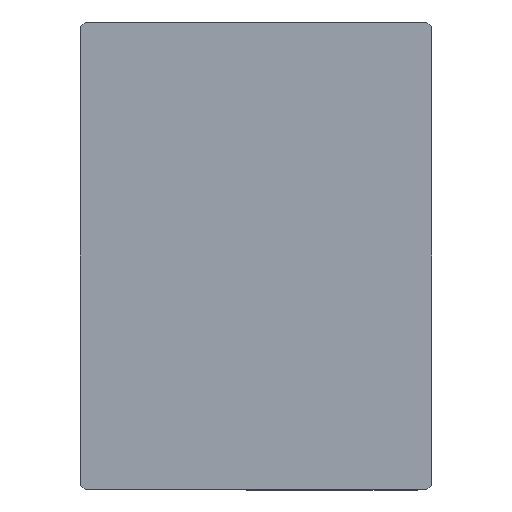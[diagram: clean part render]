
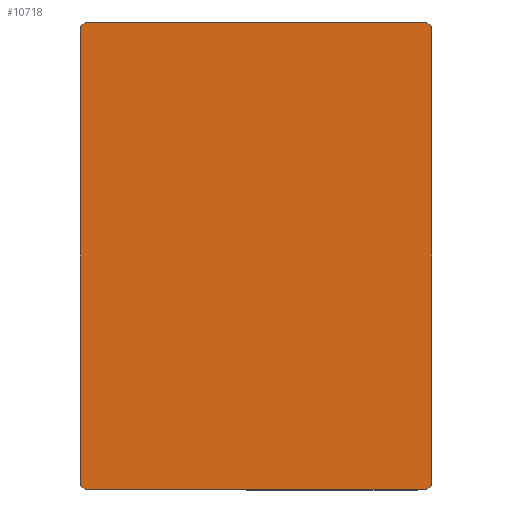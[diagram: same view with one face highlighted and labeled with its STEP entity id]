
A CAD part, left-side view. The second image highlights one B-rep face of the part: STEP entity #10718.
In plain terms, the highlighted planar face has unit normal (-1, 0, 0) as drawn and (0, 1, 0) by its records, which use the part's own axes.
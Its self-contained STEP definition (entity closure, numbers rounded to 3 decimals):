
#1375=PLANE('',#11055);
#1959=FACE_OUTER_BOUND('',#2596,.T.);
#2596=EDGE_LOOP('',(#10084,#10085,#10086,#10087,#10088,#10089,#10090,#10091));
#3350=LINE('',#21569,#4159);
#3354=LINE('',#21595,#4163);
#3385=LINE('',#21682,#4194);
#3389=LINE('',#21690,#4198);
#3394=LINE('',#21705,#4203);
#3412=LINE('',#21815,#4221);
#3413=LINE('',#21817,#4222);
#3414=LINE('',#21818,#4223);
#4159=VECTOR('',#12235,10.);
#4163=VECTOR('',#12269,10.);
#4194=VECTOR('',#12360,10.);
#4198=VECTOR('',#12368,10.);
#4203=VECTOR('',#12381,10.);
#4221=VECTOR('',#12457,10.);
#4222=VECTOR('',#12460,10.);
#4223=VECTOR('',#12461,10.);
#5279=VERTEX_POINT('',#21566);
#5280=VERTEX_POINT('',#21568);
#5285=VERTEX_POINT('',#21591);
#5287=VERTEX_POINT('',#21594);
#5313=VERTEX_POINT('',#21681);
#5315=VERTEX_POINT('',#21689);
#5319=VERTEX_POINT('',#21701);
#5321=VERTEX_POINT('',#21704);
#6831=EDGE_CURVE('',#5280,#5279,#3350,.T.);
#6839=EDGE_CURVE('',#5287,#5285,#3354,.T.);
#6882=EDGE_CURVE('',#5280,#5313,#3385,.T.);
#6886=EDGE_CURVE('',#5315,#5313,#3389,.T.);
#6893=EDGE_CURVE('',#5321,#5319,#3394,.T.);
#6930=EDGE_CURVE('',#5315,#5285,#3412,.T.);
#6931=EDGE_CURVE('',#5321,#5279,#3413,.T.);
#6932=EDGE_CURVE('',#5287,#5319,#3414,.T.);
#10084=ORIENTED_EDGE('',*,*,#6930,.F.);
#10085=ORIENTED_EDGE('',*,*,#6886,.T.);
#10086=ORIENTED_EDGE('',*,*,#6882,.F.);
#10087=ORIENTED_EDGE('',*,*,#6831,.T.);
#10088=ORIENTED_EDGE('',*,*,#6931,.F.);
#10089=ORIENTED_EDGE('',*,*,#6893,.T.);
#10090=ORIENTED_EDGE('',*,*,#6932,.F.);
#10091=ORIENTED_EDGE('',*,*,#6839,.T.);
#10718=ADVANCED_FACE('',(#1959),#1375,.T.);
#11055=AXIS2_PLACEMENT_3D('',#21816,#12458,#12459);
#12235=DIRECTION('',(0.,0.,1.));
#12269=DIRECTION('',(0.,0.,-1.));
#12360=DIRECTION('',(0.707,0.,-0.707));
#12368=DIRECTION('',(-1.,0.,0.));
#12381=DIRECTION('',(1.,0.,0.));
#12457=DIRECTION('',(0.707,0.,0.707));
#12458=DIRECTION('center_axis',(0.,1.,0.));
#12459=DIRECTION('ref_axis',(0.,0.,1.));
#12460=DIRECTION('',(-0.707,0.,-0.707));
#12461=DIRECTION('',(-0.707,0.,0.707));
#21566=CARTESIAN_POINT('',(0.,165.,99.));
#21568=CARTESIAN_POINT('',(0.,165.,1.));
#21569=CARTESIAN_POINT('',(0.,165.,100.));
#21591=CARTESIAN_POINT('',(75.,165.,1.));
#21594=CARTESIAN_POINT('',(75.,165.,99.));
#21595=CARTESIAN_POINT('',(75.,165.,0.));
#21681=CARTESIAN_POINT('',(1.,165.,0.));
#21682=CARTESIAN_POINT('',(-2.625,165.,3.625));
#21689=CARTESIAN_POINT('',(74.,165.,0.));
#21690=CARTESIAN_POINT('',(0.,165.,0.));
#21701=CARTESIAN_POINT('',(74.,165.,100.));
#21704=CARTESIAN_POINT('',(1.,165.,100.));
#21705=CARTESIAN_POINT('',(75.,165.,100.));
#21815=CARTESIAN_POINT('',(77.625,165.,3.625));
#21816=CARTESIAN_POINT('Origin',(37.5,165.,50.));
#21817=CARTESIAN_POINT('',(-2.625,165.,96.375));
#21818=CARTESIAN_POINT('',(77.625,165.,96.375));
